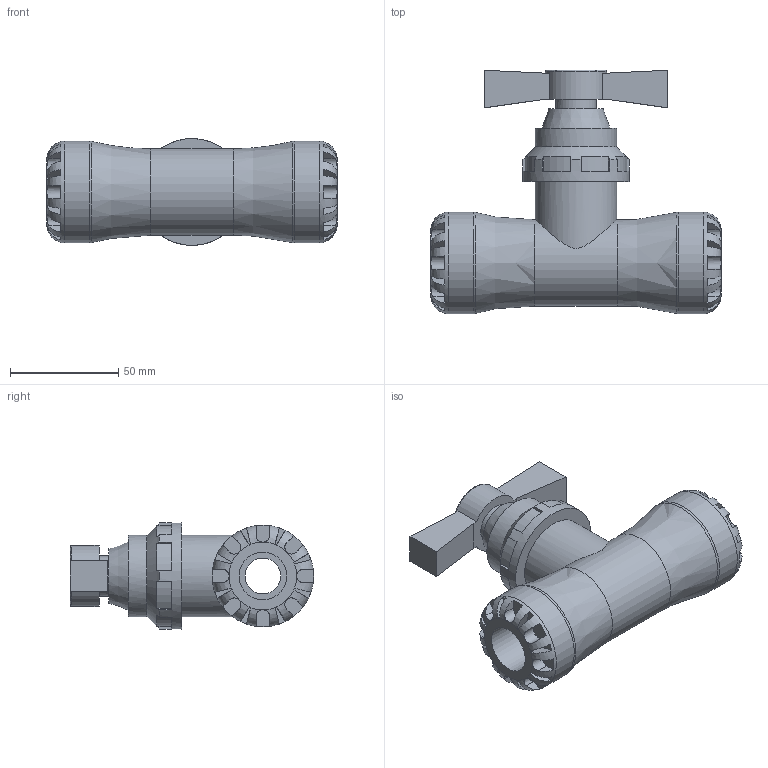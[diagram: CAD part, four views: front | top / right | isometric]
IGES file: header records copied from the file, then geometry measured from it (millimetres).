
Global section: file name: 0341C0025022.ipt; native system: Autodesk Inventor 2015; preprocessor: unknown; author: KIM; date: 20170212.115614; units: millimetre
Bounding box: 134 x 112.5 x 49.33 mm (x, y, z)
Volume: 223478.8 mm3; surface area: 45021.7 mm2
Topology: 1 solids, 1 shells, 204 faces, 544 edges, 348 vertices
Faces by surface type: plane 143, cylinder 32, revolution 27, cone 2
Full cylindrical faces by diameter (mm): 18.8 x1, 28.2 x1, 37.6 x2, 39.95 x1, 47 x2, 49.35 x1
